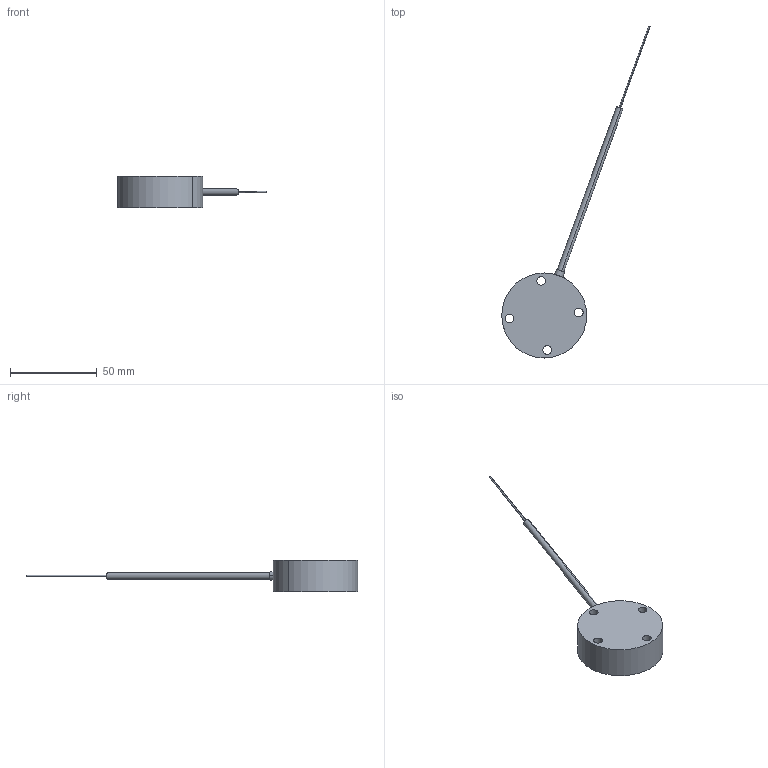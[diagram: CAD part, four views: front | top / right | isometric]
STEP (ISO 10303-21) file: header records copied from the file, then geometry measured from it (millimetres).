
FILE_DESCRIPTION (( 'STEP AP203' ), '1' );
FILE_NAME ('SU20.STEP', '2016-06-21T01:34:58', ( '' ), ( '' ), 'SwSTEP 2.0', 'SolidWorks 2014', '' );
FILE_SCHEMA (( 'CONFIG_CONTROL_DESIGN' ));
Length unit declared in the file: metre
Products named in the file (3): PRNA10S-#-#-#-FR-line (7)_3; 3; SU20
Assembly tree (2 placements, depth 2):
  SU20
    3
    PRNA10S-#-#-#-FR-line (7)_3
Bounding box: 85.68 x 191.47 x 18.3 mm (x, y, z)
Volume: 34365.2 mm3; surface area: 9035.6 mm2
Topology: 2 solids, 2 shells, 22 faces, 48 edges, 32 vertices
Faces by surface type: cylinder 16, plane 6
Entity records: 1005 total; most frequent: CARTESIAN_POINT 173, DIRECTION 130, ORIENTED_EDGE 96, AXIS2_PLACEMENT_3D 57, EDGE_CURVE 48, VERTEX_POINT 32, EDGE_LOOP 32, CIRCLE 30
